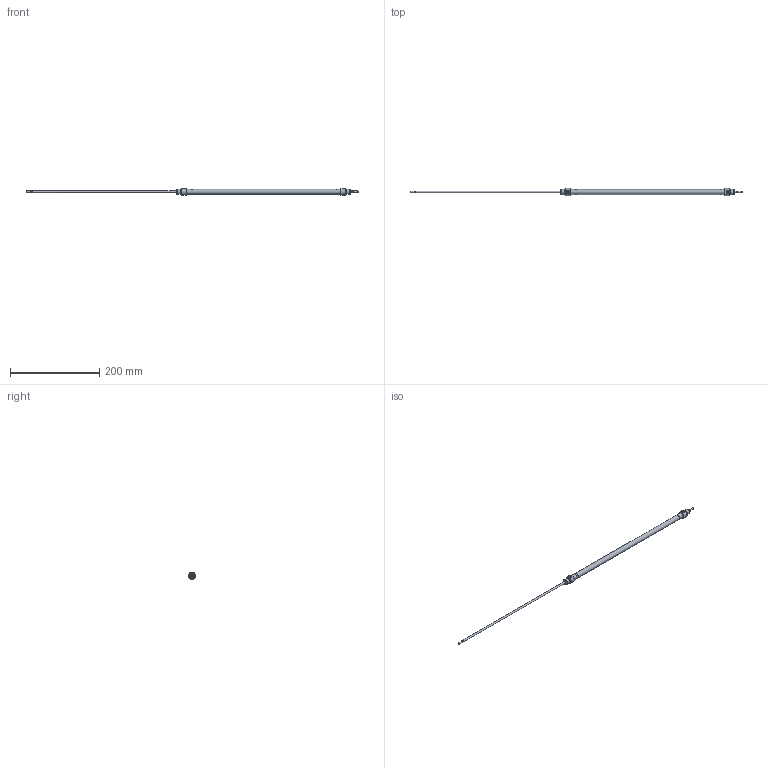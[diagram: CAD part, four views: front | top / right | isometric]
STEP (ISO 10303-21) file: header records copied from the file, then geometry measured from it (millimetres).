
FILE_DESCRIPTION( ( 'STEP AP203' ), '1' );
FILE_NAME( '//expscmdclustefs.cadenas.external/client_exchange/iodir/jobs/output/wkb68273483_no0/STEP/M101-010-0320--__0__2_03.stp', ' ', ( ' ' ), ( ' ' ), 'PSStep 15.0.47', 'PARTsolutions', ' ' );
FILE_SCHEMA( ( 'CONFIG_CONTROL_DESIGN' ) );
Length unit declared in the file: millimetre
Products named in the file (3): M101-010-0320-- [0]; HI_M101-010-0320---[0]-z; HI_M101-010-0320---[0]-k
Assembly tree (2 placements, depth 2):
  M101-010-0320-- [0]
    HI_M101-010-0320---[0]-z
    HI_M101-010-0320---[0]-k
Bounding box: 742 x 15.77 x 14.87 mm (x, y, z)
Volume: 24210.5 mm3; surface area: 35491.7 mm2
Topology: 2 solids, 2 shells, 71 faces, 145 edges, 88 vertices
Faces by surface type: plane 32, cylinder 23, cone 14, torus 2
Full cylindrical faces by diameter (mm): 3.141 x2, 4 x6, 4.134 x2, 10 x2, 10.466 x4, 11.3 x1, 12 x4
Entity records: 1838 total; most frequent: CARTESIAN_POINT 358, DIRECTION 312, ORIENTED_EDGE 212, AXIS2_PLACEMENT_3D 140, EDGE_LOOP 120, EDGE_CURVE 106, FACE_OUTER_BOUND 94, VERTEX_POINT 82
